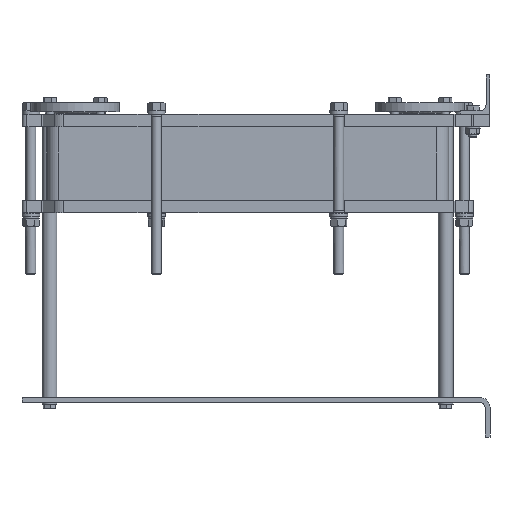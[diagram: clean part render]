
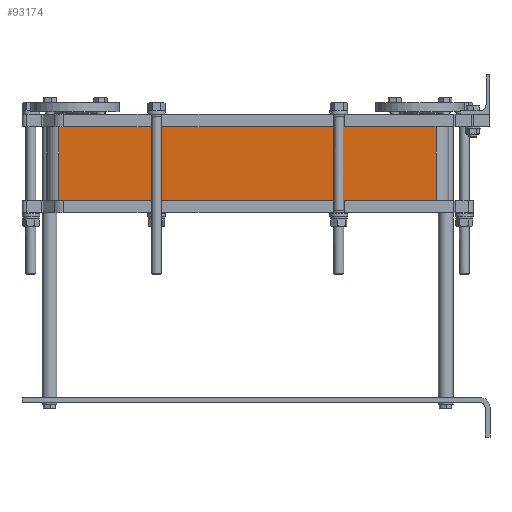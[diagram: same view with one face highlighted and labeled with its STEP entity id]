
A CAD part, left-side view. The second image highlights one B-rep face of the part: STEP entity #93174.
In plain terms, the highlighted planar face has unit normal (-1, 0, 0).
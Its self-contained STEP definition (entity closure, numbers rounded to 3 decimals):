
#3046 = VECTOR ( 'NONE', #15420, 1000. ) ;
#3464 = EDGE_CURVE ( 'NONE', #9856, #26262, #34681, .T. ) ;
#5648 = ORIENTED_EDGE ( 'NONE', *, *, #51794, .F. ) ;
#9126 = ORIENTED_EDGE ( 'NONE', *, *, #3464, .F. ) ;
#9856 = VERTEX_POINT ( 'NONE', #31031 ) ;
#15420 = DIRECTION ( 'NONE',  ( 0., -1., 0. ) ) ;
#15739 = CARTESIAN_POINT ( 'NONE',  ( 31.5, 109., -255. ) ) ;
#16081 = CARTESIAN_POINT ( 'NONE',  ( 31.5, 109., -105. ) ) ;
#19040 = VERTEX_POINT ( 'NONE', #37181 ) ;
#24010 = EDGE_CURVE ( 'NONE', #35622, #19040, #37830, .T. ) ;
#24661 = CARTESIAN_POINT ( 'NONE',  ( 31.5, 875., -255. ) ) ;
#25489 = VECTOR ( 'NONE', #58923, 1000. ) ;
#26262 = VERTEX_POINT ( 'NONE', #15739 ) ;
#26756 = VECTOR ( 'NONE', #53034, 1000. ) ;
#31031 = CARTESIAN_POINT ( 'NONE',  ( 31.5, 109., -105. ) ) ;
#34681 = LINE ( 'NONE', #16081, #25489 ) ;
#34790 = DIRECTION ( 'NONE',  ( 0., 0., -1. ) ) ;
#35622 = VERTEX_POINT ( 'NONE', #75222 ) ;
#36600 = DIRECTION ( 'NONE',  ( 0., 1., 0. ) ) ;
#37181 = CARTESIAN_POINT ( 'NONE',  ( 31.5, 875., -255. ) ) ;
#37830 = LINE ( 'NONE', #57060, #59755 ) ;
#40645 = EDGE_CURVE ( 'NONE', #26262, #19040, #60226, .T. ) ;
#43570 = FACE_OUTER_BOUND ( 'NONE', #71629, .T. ) ;
#44366 = CARTESIAN_POINT ( 'NONE',  ( 31.5, 875., -105. ) ) ;
#51001 = AXIS2_PLACEMENT_3D ( 'NONE', #87469, #58862, #36600 ) ;
#51794 = EDGE_CURVE ( 'NONE', #35622, #9856, #82482, .T. ) ;
#53034 = DIRECTION ( 'NONE',  ( 0., 1., 0. ) ) ;
#55439 = ORIENTED_EDGE ( 'NONE', *, *, #24010, .T. ) ;
#57060 = CARTESIAN_POINT ( 'NONE',  ( 31.5, 875., -105. ) ) ;
#58862 = DIRECTION ( 'NONE',  ( -1., 0., 0. ) ) ;
#58923 = DIRECTION ( 'NONE',  ( 0., 0., -1. ) ) ;
#59755 = VECTOR ( 'NONE', #34790, 1000. ) ;
#60226 = LINE ( 'NONE', #24661, #26756 ) ;
#67842 = ORIENTED_EDGE ( 'NONE', *, *, #40645, .F. ) ;
#71629 = EDGE_LOOP ( 'NONE', ( #5648, #55439, #67842, #9126 ) ) ;
#75222 = CARTESIAN_POINT ( 'NONE',  ( 31.5, 875., -105. ) ) ;
#82482 = LINE ( 'NONE', #44366, #3046 ) ;
#86530 = PLANE ( 'NONE',  #51001 ) ;
#87469 = CARTESIAN_POINT ( 'NONE',  ( 31.5, 109., -105. ) ) ;
#93174 = ADVANCED_FACE ( 'NONE', ( #43570 ), #86530, .T. ) ;
